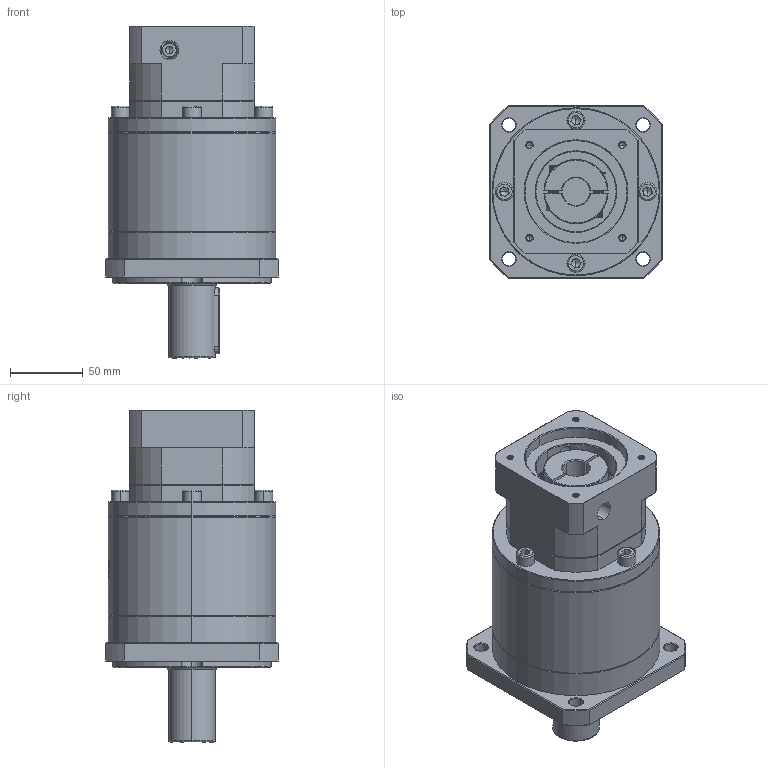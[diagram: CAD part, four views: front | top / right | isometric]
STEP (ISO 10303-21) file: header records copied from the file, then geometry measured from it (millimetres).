
FILE_DESCRIPTION (( 'STEP AP214' ), '1' );
FILE_NAME ('ZF120A-D32-L3-P2-19-70-90-M5.step', '2023-08-27T06:00:49', ( '' ), ( '' ), 'SwSTEP 2.0', 'SolidWorks 2016', '' );
FILE_SCHEMA (( 'AUTOMOTIVE_DESIGN' ));
Length unit declared in the file: millimetre
Products named in the file (1): ZF120A-D32-L3-P2-19-70-90-M5
Bounding box: 118 x 118 x 227.5 mm (x, y, z)
Volume: 1588917.3 mm3; surface area: 137199.8 mm2
Topology: 5 solids, 5 shells, 2181 faces, 5840 edges, 3755 vertices
Faces by surface type: plane 1054, bspline 434, cylinder 396, cone 297
Entity records: 120628 total; most frequent: CARTESIAN_POINT 47695, ORIENTED_EDGE 11620, DIRECTION 8268, EDGE_CURVE 5810, VERTEX_POINT 3755, LINE 3080, VECTOR 3080, AXIS2_PLACEMENT_3D 2594
